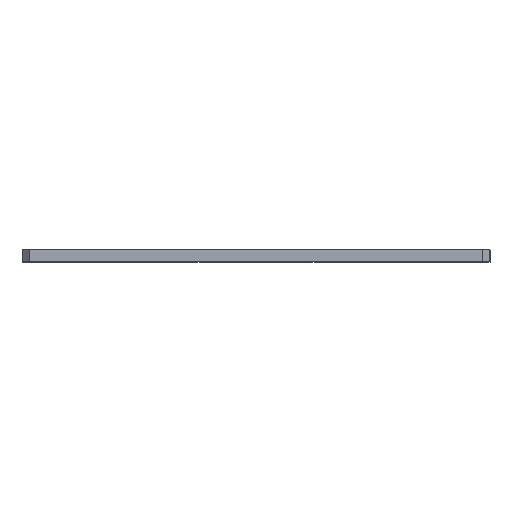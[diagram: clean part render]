
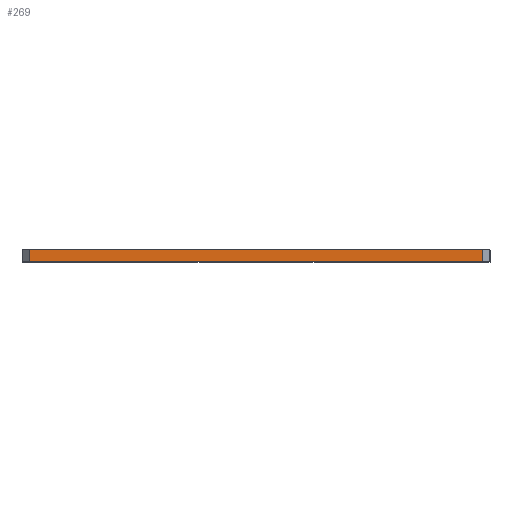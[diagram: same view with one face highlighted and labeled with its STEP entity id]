
A CAD part, top view. The second image highlights one B-rep face of the part: STEP entity #269.
In plain terms, the highlighted planar face has unit normal (0, 0, 1).
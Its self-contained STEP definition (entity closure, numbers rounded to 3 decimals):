
#269=ADVANCED_FACE('',(#468),#3625,.T.);
#468=FACE_OUTER_BOUND('',#667,.T.);
#667=EDGE_LOOP('',(#1518,#1519,#1520,#1521));
#1518=ORIENTED_EDGE('',*,*,#2168,.T.);
#1519=ORIENTED_EDGE('',*,*,#2450,.F.);
#1520=ORIENTED_EDGE('',*,*,#2438,.T.);
#1521=ORIENTED_EDGE('',*,*,#2455,.T.);
#2168=EDGE_CURVE('',#3247,#3244,#2885,.T.);
#2438=EDGE_CURVE('',#3425,#3428,#3048,.T.);
#2450=EDGE_CURVE('',#3425,#3244,#3060,.T.);
#2455=EDGE_CURVE('',#3428,#3247,#3064,.T.);
#2885=B_SPLINE_CURVE_WITH_KNOTS('',1,(#6141,#6142),.UNSPECIFIED.,.F.,.F.,
(2,2),(0.,5.),.UNSPECIFIED.);
#3048=B_SPLINE_CURVE_WITH_KNOTS('',1,(#7029,#7030),.UNSPECIFIED.,.F.,.F.,
(2,2),(0.,5.),.UNSPECIFIED.);
#3060=B_SPLINE_CURVE_WITH_KNOTS('',1,(#7057,#7058,#7059,#7060,#7061,#7062,
#7063),.UNSPECIFIED.,.F.,.F.,(2,1,1,1,1,1,2),(328.336,331.336,
331.677,421.557,511.437,511.779,514.779),
 .UNSPECIFIED.);
#3064=B_SPLINE_CURVE_WITH_KNOTS('',1,(#7078,#7079,#7080,#7081,#7082,#7083,
#7084,#7085,#7086,#7087,#7088),.UNSPECIFIED.,.F.,.F.,(2,1,1,1,1,1,1,1,1,
1,2),(328.336,329.336,331.336,331.677,
334.336,421.557,508.779,511.437,511.779,
513.779,514.779),.UNSPECIFIED.);
#3244=VERTEX_POINT('',#5069);
#3247=VERTEX_POINT('',#5072);
#3425=VERTEX_POINT('',#5250);
#3428=VERTEX_POINT('',#5253);
#3625=PLANE('',#3771);
#3771=AXIS2_PLACEMENT_3D('',#4677,#3900,$);
#3900=DIRECTION('',(0.,0.,1.));
#4677=CARTESIAN_POINT('',(-96.222,159.501,437.148));
#5069=CARTESIAN_POINT('',(-93.222,159.501,437.148));
#5072=CARTESIAN_POINT('',(-93.222,164.501,437.148));
#5250=CARTESIAN_POINT('',(93.221,159.501,437.148));
#5253=CARTESIAN_POINT('',(93.221,164.501,437.148));
#6141=CARTESIAN_POINT('',(-93.222,164.501,437.148));
#6142=CARTESIAN_POINT('',(-93.222,159.501,437.148));
#7029=CARTESIAN_POINT('',(93.221,159.501,437.148));
#7030=CARTESIAN_POINT('',(93.221,164.501,437.148));
#7057=CARTESIAN_POINT('',(93.221,159.501,437.148));
#7058=CARTESIAN_POINT('',(90.221,159.501,437.148));
#7059=CARTESIAN_POINT('',(89.88,159.501,437.148));
#7060=CARTESIAN_POINT('',(0.,159.501,437.148));
#7061=CARTESIAN_POINT('',(-89.88,159.501,437.148));
#7062=CARTESIAN_POINT('',(-90.222,159.501,437.148));
#7063=CARTESIAN_POINT('',(-93.222,159.501,437.148));
#7078=CARTESIAN_POINT('',(93.221,164.501,437.148));
#7079=CARTESIAN_POINT('',(92.221,164.501,437.148));
#7080=CARTESIAN_POINT('',(90.221,164.501,437.148));
#7081=CARTESIAN_POINT('',(89.88,164.501,437.148));
#7082=CARTESIAN_POINT('',(87.221,164.501,437.148));
#7083=CARTESIAN_POINT('',(0.,164.501,437.148));
#7084=CARTESIAN_POINT('',(-87.222,164.501,437.148));
#7085=CARTESIAN_POINT('',(-89.88,164.501,437.148));
#7086=CARTESIAN_POINT('',(-90.222,164.501,437.148));
#7087=CARTESIAN_POINT('',(-92.222,164.501,437.148));
#7088=CARTESIAN_POINT('',(-93.222,164.501,437.148));
